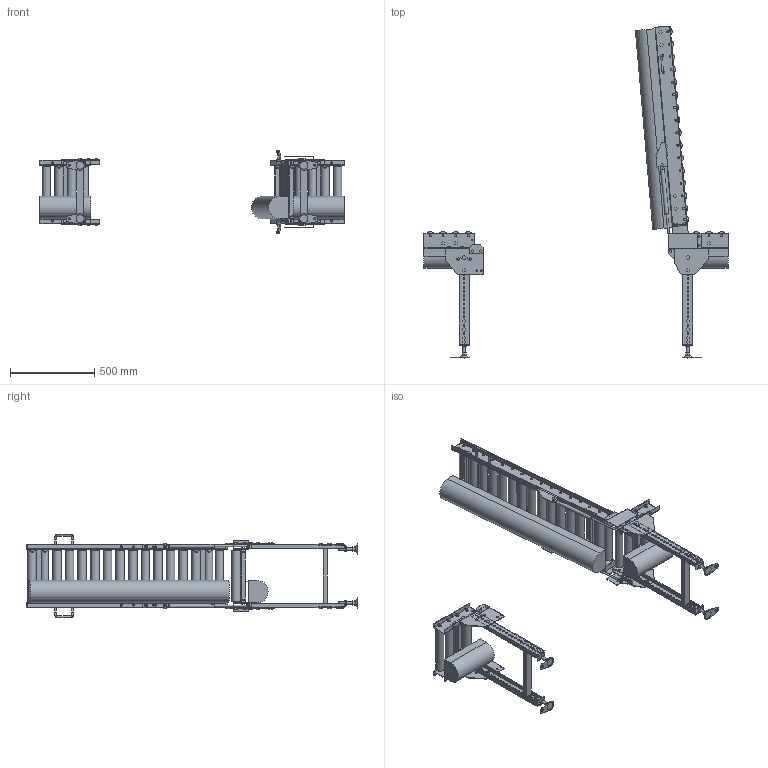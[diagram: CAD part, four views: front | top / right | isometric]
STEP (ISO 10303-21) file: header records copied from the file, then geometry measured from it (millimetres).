
FILE_DESCRIPTION( (''), '2;1');
FILE_NAME ('WEB-MCD50-315-75-120-R-HU.stp','2025-07-01T15:59:10',(''),(''),'spGate 20.6.2 (****-****-****-****)','','');
FILE_SCHEMA (('AUTOMOTIVE_DESIGN'));
Length unit declared in the file: millimetre
Products named in the file (30): WEB-MCD50-315-75-120-R-HU; TEMP_X_T-prt0; TEMP_X_T-prt1; TEMP_X_T-prt2; TEMP_X_T-prt3; TEMP_X_T-prt4; TEMP_X_T-prt5; TEMP_X_T-prt6; TEMP_X_T-prt7; TEMP_X_T-prt8; TEMP_X_T-prt9; TEMP_X_T-prt10; TEMP_X_T-prt11; TEMP_X_T-prt12; TEMP_X_T-prt13; TEMP_X_T-prt14; TEMP_X_T-prt15; TEMP_X_T-prt16; TEMP_X_T-prt17; TEMP_X_T-prt18; TEMP_X_T-prt19; TEMP_X_T-prt20; TEMP_X_T-prt21; TEMP_X_T-prt22; TEMP_X_T-prt23; TEMP_X_T-prt24; TEMP_X_T-prt25; TEMP_X_T-prt26; TEMP_X_T-prt27; TEMP_X_T-prt28
Assembly tree (29 placements, depth 2):
  WEB-MCD50-315-75-120-R-HU
    TEMP_X_T-prt0
    TEMP_X_T-prt1
    TEMP_X_T-prt2
    TEMP_X_T-prt3
    TEMP_X_T-prt4
    TEMP_X_T-prt5
    TEMP_X_T-prt6
    TEMP_X_T-prt7
    TEMP_X_T-prt8
    TEMP_X_T-prt9
    TEMP_X_T-prt10
    TEMP_X_T-prt11
    TEMP_X_T-prt12
    TEMP_X_T-prt13
    TEMP_X_T-prt14
    TEMP_X_T-prt15
    TEMP_X_T-prt16
    TEMP_X_T-prt17
    TEMP_X_T-prt18
    TEMP_X_T-prt19
    TEMP_X_T-prt20
    TEMP_X_T-prt21
    TEMP_X_T-prt22
    TEMP_X_T-prt23
    TEMP_X_T-prt24
    TEMP_X_T-prt25
    TEMP_X_T-prt26
    TEMP_X_T-prt27
    TEMP_X_T-prt28
Bounding box: 1800 x 1964.71 x 491.4 mm (x, y, z)
Volume: 44918312.2 mm3; surface area: 4561065.7 mm2
Topology: 29 solids, 55 shells, 2662 faces, 6738 edges, 4443 vertices
Faces by surface type: plane 2163, cylinder 481, bspline 18
Full cylindrical faces by diameter (mm): 8 x8, 8.5 x8, 9 x20, 10 x58, 10.5 x96, 11 x8, 12 x50, 13 x12, 14 x4, 15 x6, 15.4 x2, 15.7 x2, 16 x10, 17 x4, 18 x6, 18.4 x28, 18.5 x8, 21 x12, 22 x2, 50.8 x24
Entity records: 136724 total; most frequent: CARTESIAN_POINT 15377, DIRECTION 13676, ORIENTED_EDGE 13476, COLOUR_RGB 9429, PRESENTATION_STYLE_ASSIGNMENT 9429, STYLED_ITEM 9429, EDGE_CURVE 6738, DRAUGHTING_PRE_DEFINED_CURVE_FONT 6738
